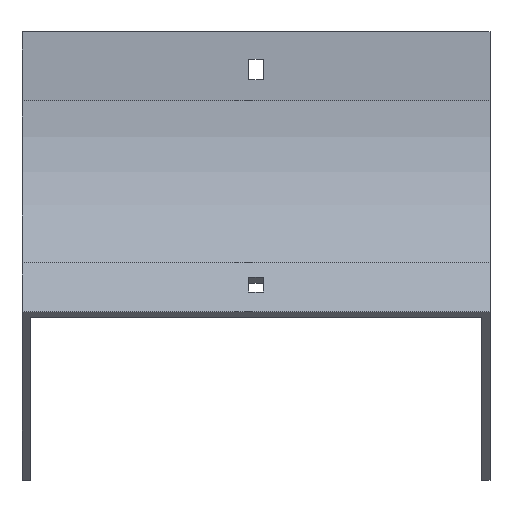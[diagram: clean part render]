
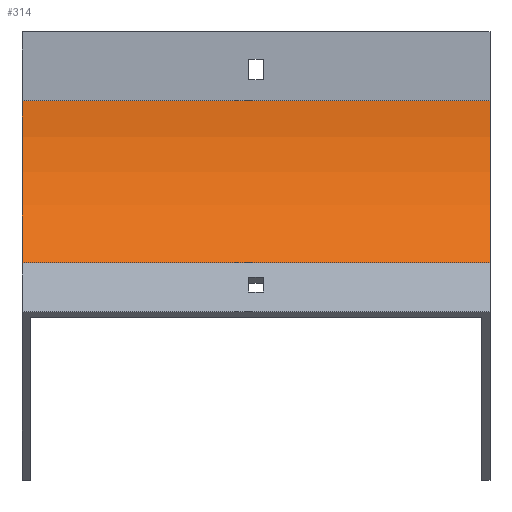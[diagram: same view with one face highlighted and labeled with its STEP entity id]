
A CAD part, front view. The second image highlights one B-rep face of the part: STEP entity #314.
In plain terms, the highlighted cylindrical face has radius 100 mm (diameter 200 mm), a partial arc.
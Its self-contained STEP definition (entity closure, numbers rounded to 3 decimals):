
#52 = FACE_OUTER_BOUND ( 'NONE', #524, .T. ) ;
#73 = DIRECTION ( 'NONE',  ( 0., 0., 1. ) ) ;
#147 = EDGE_CURVE ( 'NONE', #165, #193, #714, .T. ) ;
#165 = VERTEX_POINT ( 'NONE', #599 ) ;
#175 = AXIS2_PLACEMENT_3D ( 'NONE', #799, #1083, #73 ) ;
#193 = VERTEX_POINT ( 'NONE', #617 ) ;
#281 = VECTOR ( 'NONE', #1107, 1000. ) ;
#314 = ADVANCED_FACE ( 'NONE', ( #52 ), #1710, .F. ) ;
#445 = VERTEX_POINT ( 'NONE', #1272 ) ;
#503 = DIRECTION ( 'NONE',  ( 0., 0., 1. ) ) ;
#524 = EDGE_LOOP ( 'NONE', ( #1005, #1037, #1754, #1734 ) ) ;
#540 = DIRECTION ( 'NONE',  ( 0., 0., 1. ) ) ;
#599 = CARTESIAN_POINT ( 'NONE',  ( -102., 0., -30. ) ) ;
#617 = CARTESIAN_POINT ( 'NONE',  ( -102., -29.289, -100.711 ) ) ;
#637 = CARTESIAN_POINT ( 'NONE',  ( 102., -100., -30. ) ) ;
#698 = CARTESIAN_POINT ( 'NONE',  ( 102., -29.289, -100.711 ) ) ;
#714 = CIRCLE ( 'NONE', #783, 100. ) ;
#760 = EDGE_CURVE ( 'NONE', #445, #1018, #1487, .T. ) ;
#783 = AXIS2_PLACEMENT_3D ( 'NONE', #1251, #1612, #540 ) ;
#799 = CARTESIAN_POINT ( 'NONE',  ( 102., -100., -30. ) ) ;
#903 = EDGE_CURVE ( 'NONE', #445, #165, #1578, .T. ) ;
#983 = DIRECTION ( 'NONE',  ( -1., 0., 0. ) ) ;
#1005 = ORIENTED_EDGE ( 'NONE', *, *, #147, .T. ) ;
#1018 = VERTEX_POINT ( 'NONE', #1316 ) ;
#1037 = ORIENTED_EDGE ( 'NONE', *, *, #1742, .F. ) ;
#1083 = DIRECTION ( 'NONE',  ( -1., 0., 0. ) ) ;
#1107 = DIRECTION ( 'NONE',  ( -1., 0., 0. ) ) ;
#1121 = AXIS2_PLACEMENT_3D ( 'NONE', #637, #1415, #503 ) ;
#1251 = CARTESIAN_POINT ( 'NONE',  ( -102., -100., -30. ) ) ;
#1255 = LINE ( 'NONE', #698, #1261 ) ;
#1261 = VECTOR ( 'NONE', #983, 1000. ) ;
#1272 = CARTESIAN_POINT ( 'NONE',  ( 102., 0., -30. ) ) ;
#1316 = CARTESIAN_POINT ( 'NONE',  ( 102., -29.289, -100.711 ) ) ;
#1415 = DIRECTION ( 'NONE',  ( -1., 0., 0. ) ) ;
#1417 = CARTESIAN_POINT ( 'NONE',  ( 102., 0., -30. ) ) ;
#1487 = CIRCLE ( 'NONE', #1121, 100. ) ;
#1578 = LINE ( 'NONE', #1417, #281 ) ;
#1612 = DIRECTION ( 'NONE',  ( -1., 0., 0. ) ) ;
#1710 = CYLINDRICAL_SURFACE ( 'NONE', #175, 100. ) ;
#1734 = ORIENTED_EDGE ( 'NONE', *, *, #903, .T. ) ;
#1742 = EDGE_CURVE ( 'NONE', #1018, #193, #1255, .T. ) ;
#1754 = ORIENTED_EDGE ( 'NONE', *, *, #760, .F. ) ;
